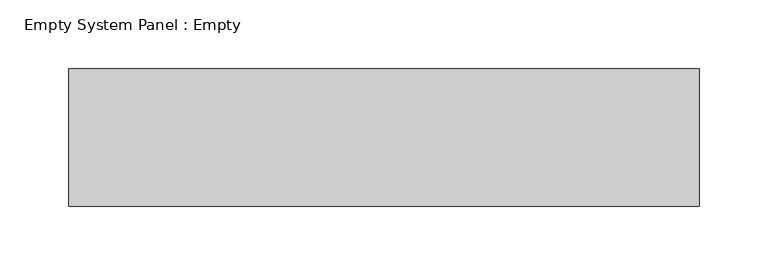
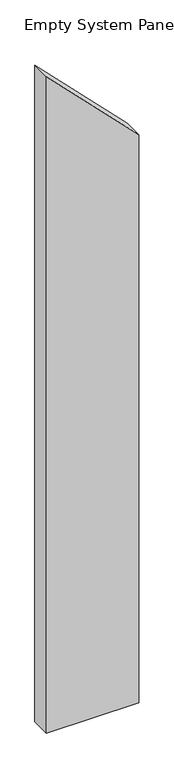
"""IFC4 building model written with IfcOpenShell, lengths in millimetres: plate geometry, Empty System Panel : Empty."""

import ifcopenshell
import ifcopenshell.guid

model = None  # the IFC model being written
_history = None  # IfcOwnerHistory: only IFC2X3 demands one
_inside = {}  # id of a spatial element -> (the spatial element, [elements in it])
_under = {}  # id of a project, library or spatial element -> (it, [spatial elements below it])
_declared = {}  # id of a project -> (the project, [libraries it declares])
_typed = {}  # id of a type object -> (the type object, [elements of that type])
_made_of = {}  # id of a material, layer set ... -> (it, [elements and type objects made of it])


def new_model(schema):
    """Start an empty IFC model of exactly this schema.

    Asked for "IFC4X3", IfcOpenShell would pick the latest addendum, in which some entities
    have other attributes; the version numbers below select the first issue.
    IFC2X3 requires an IfcOwnerHistory on every rooted entity: one is made here for all.
    """
    global model, _history
    if schema == "IFC4X3":
        model = ifcopenshell.file(schema_version=(4, 3, 0, 0))
    else:
        model = ifcopenshell.file(schema=schema)
    _inside.clear()
    _under.clear()
    _declared.clear()
    _typed.clear()
    _made_of.clear()
    _history = None
    if model.schema == "IFC2X3":
        org = make("IfcOrganization", Name="unknown")
        user = make(
            "IfcPersonAndOrganization",
            ThePerson=make("IfcPerson", FamilyName="unknown"),
            TheOrganization=org,
        )
        app = make(
            "IfcApplication",
            ApplicationDeveloper=org,
            Version="unknown",
            ApplicationFullName="unknown",
            ApplicationIdentifier="unknown",
        )
        _history = make(
            "IfcOwnerHistory",
            OwningUser=user,
            OwningApplication=app,
            ChangeAction="ADDED",
            CreationDate=0,
        )
    return model


def make(cls, **values):
    """One entity of the class cls with the attributes given. An attribute that is None is left unset."""
    return model.create_entity(
        cls, **{name: value for name, value in values.items() if value is not None}
    )


def rooted(cls, **values):
    """An entity with a GlobalId (a new one), such as an element, a storey or a relation."""
    return make(cls, GlobalId=ifcopenshell.guid.new(), OwnerHistory=_history, **values)


def si_unit(unit_type, name, prefix=None):
    """IfcSIUnit, for example si_unit("LENGTHUNIT", "METRE", prefix="MILLI")."""
    return make("IfcSIUnit", UnitType=unit_type, Prefix=prefix, Name=name)


def assignment(units):
    """IfcUnitAssignment: the units of a project."""
    return None if units is None else make("IfcUnitAssignment", Units=units)


def point(xyz):
    """IfcCartesianPoint."""
    return None if xyz is None else make("IfcCartesianPoint", Coordinates=xyz)


def direction(xyz):
    """IfcDirection."""
    return None if xyz is None else make("IfcDirection", DirectionRatios=xyz)


def frame(location, z_axis=None, x_axis=None):
    """IfcAxis2Placement3D, a coordinate frame: its origin and axes. An axis left out is left unset."""
    return make(
        "IfcAxis2Placement3D",
        Location=point(location),
        Axis=direction(z_axis),
        RefDirection=direction(x_axis),
    )


def origin():
    """The frame at (0, 0, 0) with its axes left unset."""
    return frame((0.0, 0.0, 0.0))


def place(relative_to, where):
    """IfcLocalPlacement: puts the frame where relative to a parent placement (None: the world)."""
    return make(
        "IfcLocalPlacement", PlacementRelTo=relative_to, RelativePlacement=where
    )


def context(
    kind, dimensions, precision=None, world=None, true_north=None, identifier=None
):
    """IfcGeometricRepresentationContext, for example the 3D "Model" context."""
    return make(
        "IfcGeometricRepresentationContext",
        ContextIdentifier=identifier,
        ContextType=kind,
        CoordinateSpaceDimension=dimensions,
        Precision=precision,
        WorldCoordinateSystem=world,
        TrueNorth=true_north,
    )


def project(units=None, contexts=None):
    """IfcProject with its units and contexts."""
    return rooted(
        "IfcProject",
        Name="project",
        RepresentationContexts=contexts,
        UnitsInContext=assignment(units),
    )


def spatial(cls, under=None, at=None, **own):
    """A site, building, storey or space (cls), placed at a placement, below another one or the project."""
    s = rooted(cls, ObjectPlacement=at, **own)
    if under is not None:
        _under.setdefault(under.id(), (under, []))[1].append(s)
    return s


def polyline(points):
    """IfcPolyline through the points."""
    return make("IfcPolyline", Points=[point(p) for p in points])


def outline(outer, holes=None, kind="AREA"):
    """IfcArbitraryClosedProfileDef: a profile drawn as a closed curve; with holes, ...WithVoids."""
    if holes is None:
        return make("IfcArbitraryClosedProfileDef", ProfileType=kind, OuterCurve=outer)
    return make(
        "IfcArbitraryProfileDefWithVoids",
        ProfileType=kind,
        OuterCurve=outer,
        InnerCurves=holes,
    )


def extrude(swept, where, along, depth):
    """IfcExtrudedAreaSolid: the profile swept, set in the frame where, extruded along a direction by depth."""
    return make(
        "IfcExtrudedAreaSolid",
        SweptArea=swept,
        Position=where,
        ExtrudedDirection=direction(along),
        Depth=depth,
    )


def shape(context_of_items, identifier, shape_type, items):
    """IfcShapeRepresentation: the items that make up one representation, for example the "Body"."""
    return make(
        "IfcShapeRepresentation",
        ContextOfItems=context_of_items,
        RepresentationIdentifier=identifier,
        RepresentationType=shape_type,
        Items=items,
    )


def source(mapping_origin, context_of_items, identifier, shape_type, items):
    """IfcRepresentationMap: a shape defined once, which mapped items show again and again."""
    return make(
        "IfcRepresentationMap",
        MappingOrigin=mapping_origin,
        MappedRepresentation=shape(context_of_items, identifier, shape_type, items),
    )


def transform(
    local_origin,
    x_axis=None,
    y_axis=None,
    z_axis=None,
    scale=None,
    scale2=None,
    scale3=None,
    uniform=True,
):
    """IfcCartesianTransformationOperator3D, or its non-uniform kind. x_axis, y_axis, z_axis: its Axis1, 2, 3."""
    if uniform:
        return make(
            "IfcCartesianTransformationOperator3D",
            Axis1=direction(x_axis),
            Axis2=direction(y_axis),
            LocalOrigin=point(local_origin),
            Scale=scale,
            Axis3=direction(z_axis),
        )
    return make(
        "IfcCartesianTransformationOperator3DnonUniform",
        Axis1=direction(x_axis),
        Axis2=direction(y_axis),
        LocalOrigin=point(local_origin),
        Scale=scale,
        Axis3=direction(z_axis),
        Scale2=scale2,
        Scale3=scale3,
    )


def mapped(mapping_source, mapping_target):
    """IfcMappedItem: shows the shape of a source again, moved by a transform."""
    return make(
        "IfcMappedItem", MappingSource=mapping_source, MappingTarget=mapping_target
    )


def made_of(thing, what):
    """Note that an element or type object is made of a material, layer set ...; save() writes the relation."""
    if what is not None:
        _made_of.setdefault(what.id(), (what, []))[1].append(thing)
    return thing


def element(
    cls,
    number,
    at=None,
    inside=None,
    cuts=None,
    type_object=None,
    material=None,
    context=None,
    identifier="Body",
    shape_type=None,
    held_by="IfcProductDefinitionShape",
    body=None,
    shapes=None,
    **own,
):
    """One element of the class cls, such as IfcWall. Its Tag is "e" and its number.

    at: its placement. inside: the storey or other place that contains it. cuts: it is an
    opening in that element (IfcRelVoidsElement). A single representation is given by context,
    identifier, shape_type and body (its items); several are given by shapes. held_by: the class
    of the entity that holds the representations. save() writes the other relations.
    """
    e = rooted(cls, Tag="e%d" % number, ObjectPlacement=at, **own)
    if body is not None:
        shapes = [shape(context, identifier, shape_type, body)]
    if shapes is not None:
        e.Representation = make(held_by, Representations=shapes)
    if inside is not None:
        _inside.setdefault(inside.id(), (inside, []))[1].append(e)
    if cuts is not None:
        rooted(
            "IfcRelVoidsElement", RelatingBuildingElement=cuts, RelatedOpeningElement=e
        )
    if type_object is not None:
        _typed.setdefault(type_object.id(), (type_object, []))[1].append(e)
    return made_of(e, material)


def aggregate(whole, parts):
    """IfcRelAggregates: a whole, such as a stair, and the parts it consists of."""
    return rooted("IfcRelAggregates", RelatingObject=whole, RelatedObjects=parts)


def save(model, path):
    """Write the relations noted so far, then the file.

    IfcRelAggregates (storeys below a building ...), IfcRelContainedInSpatialStructure (elements
    in a storey), IfcRelDefinesByType, IfcRelAssociatesMaterial and IfcRelDeclares: one each for
    every whole, place, type object, material and project.
    """
    for whole, parts in _under.values():
        aggregate(whole, parts)
    for where, things in _inside.values():
        rooted(
            "IfcRelContainedInSpatialStructure",
            RelatedElements=things,
            RelatingStructure=where,
        )
    for kind, things in _typed.values():
        rooted("IfcRelDefinesByType", RelatedObjects=things, RelatingType=kind)
    for what, things in _made_of.values():
        rooted("IfcRelAssociatesMaterial", RelatedObjects=things, RelatingMaterial=what)
    for by, libraries in _declared.values():
        rooted("IfcRelDeclares", RelatingContext=by, RelatedDefinitions=libraries)
    model.write(path)


def empty_system_panel_empty_2293368e(model_context):
    return source(origin(), model_context, "Body", "SweptSolid", [
        extrude(outline(polyline([(0.0, -229.6046705), (0.0, 229.6046705), (2992.1031331, 229.6046705), (3456.4498421, -229.6046705), (0.0, -229.6046705)])), frame((0.0, -50.0, 0.0), z_axis=(0.0, 1.0, 0.0), x_axis=(0.0, 0.0, 1.0)), (0.0, 0.0, 1.0), 100.0),
    ])


if __name__ == "__main__":
    model = new_model("IFC4")
    model_context = context("Model", 3, world=origin())
    ifc_project = project(units=[si_unit("LENGTHUNIT", "METRE", prefix="MILLI")], contexts=[model_context])
    site = spatial("IfcSite", under=ifc_project)
    building = spatial("IfcBuilding", under=site)
    placement = place(None, origin())
    empty_system_panel_empty_shape = empty_system_panel_empty_2293368e(model_context)
    element("IfcPlate", 1, ObjectType="Empty System Panel : Empty", at=placement, inside=building, context=model_context, shape_type="MappedRepresentation", body=[
        mapped(empty_system_panel_empty_shape, transform((0.0, 0.0, 0.0), x_axis=(1.0, 0.0, 0.0), y_axis=(0.0, 1.0, 0.0), z_axis=(0.0, 0.0, 1.0))),
    ])
    save(model, "model.ifc")
